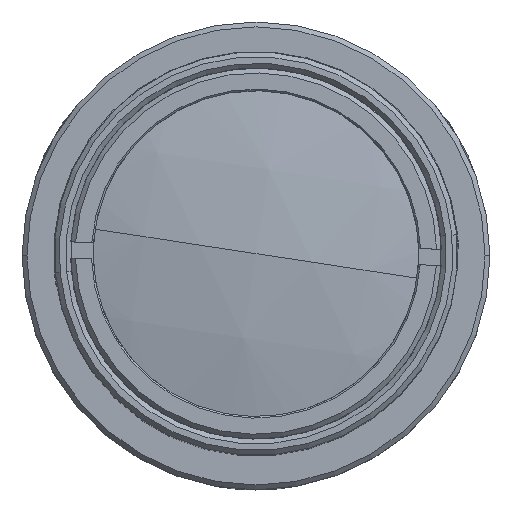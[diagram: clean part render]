
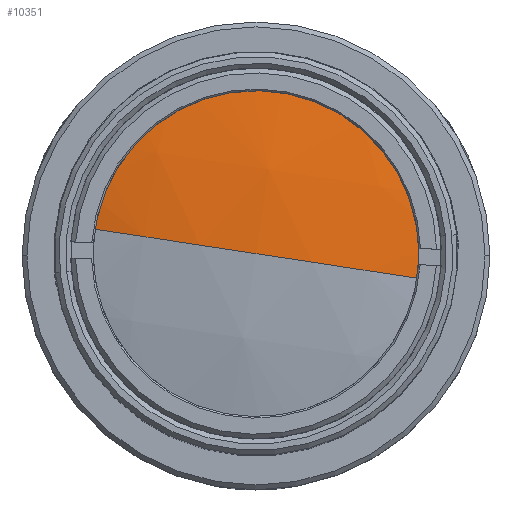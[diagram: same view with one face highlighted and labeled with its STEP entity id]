
A CAD part, top view. The second image highlights one B-rep face of the part: STEP entity #10351.
In plain terms, the highlighted spherical face has radius 48 mm.
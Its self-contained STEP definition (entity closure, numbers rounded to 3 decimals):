
#139 = VERTEX_POINT ( 'NONE', #2305 ) ;
#164 = SPHERICAL_SURFACE ( 'NONE', #4683, 48. ) ;
#229 = DIRECTION ( 'NONE',  ( -0.151, -0.989, 0. ) ) ;
#618 = ORIENTED_EDGE ( 'NONE', *, *, #9857, .T. ) ;
#877 = CARTESIAN_POINT ( 'NONE',  ( 10.372, -1.58, 103.152 ) ) ;
#985 = ORIENTED_EDGE ( 'NONE', *, *, #7111, .T. ) ;
#1015 = CARTESIAN_POINT ( 'NONE',  ( 0., 0., 104.312 ) ) ;
#1050 = EDGE_CURVE ( 'NONE', #10903, #8185, #4703, .T. ) ;
#2076 = AXIS2_PLACEMENT_3D ( 'NONE', #2925, #6778, #12117 ) ;
#2187 = DIRECTION ( 'NONE',  ( 0., 0., 1. ) ) ;
#2287 = DIRECTION ( 'NONE',  ( -0.989, 0.151, 0. ) ) ;
#2305 = CARTESIAN_POINT ( 'NONE',  ( 1.58, 10.372, 103.152 ) ) ;
#2925 = CARTESIAN_POINT ( 'NONE',  ( 0., 0., 56.312 ) ) ;
#3662 = DIRECTION ( 'NONE',  ( 0., 0., 1. ) ) ;
#4212 = EDGE_CURVE ( 'NONE', #7345, #8185, #6112, .T. ) ;
#4468 = CARTESIAN_POINT ( 'NONE',  ( 0., 0., 56.312 ) ) ;
#4683 = AXIS2_PLACEMENT_3D ( 'NONE', #4468, #229, #2287 ) ;
#4703 = CIRCLE ( 'NONE', #2076, 48. ) ;
#5735 = CIRCLE ( 'NONE', #12855, 10.491 ) ;
#6112 = CIRCLE ( 'NONE', #13035, 48. ) ;
#6298 = FACE_OUTER_BOUND ( 'NONE', #10580, .T. ) ;
#6361 = ORIENTED_EDGE ( 'NONE', *, *, #4212, .T. ) ;
#6778 = DIRECTION ( 'NONE',  ( -0.151, -0.989, 0. ) ) ;
#7111 = EDGE_CURVE ( 'NONE', #139, #7345, #7301, .T. ) ;
#7301 = CIRCLE ( 'NONE', #9709, 10.491 ) ;
#7345 = VERTEX_POINT ( 'NONE', #9849 ) ;
#7557 = DIRECTION ( 'NONE',  ( -0.151, -0.989, 0. ) ) ;
#8185 = VERTEX_POINT ( 'NONE', #1015 ) ;
#9709 = AXIS2_PLACEMENT_3D ( 'NONE', #12700, #2187, #7557 ) ;
#9849 = CARTESIAN_POINT ( 'NONE',  ( -10.372, 1.58, 103.152 ) ) ;
#9857 = EDGE_CURVE ( 'NONE', #10903, #139, #5735, .T. ) ;
#10351 = ADVANCED_FACE ( 'NONE', ( #6298 ), #164, .T. ) ;
#10415 = DIRECTION ( 'NONE',  ( -0.989, 0.151, 0. ) ) ;
#10580 = EDGE_LOOP ( 'NONE', ( #11596, #618, #985, #6361 ) ) ;
#10903 = VERTEX_POINT ( 'NONE', #877 ) ;
#11361 = DIRECTION ( 'NONE',  ( 0.151, 0.989, 0. ) ) ;
#11596 = ORIENTED_EDGE ( 'NONE', *, *, #1050, .F. ) ;
#11964 = DIRECTION ( 'NONE',  ( -0.151, -0.989, 0. ) ) ;
#12117 = DIRECTION ( 'NONE',  ( 0.989, -0.151, 0. ) ) ;
#12432 = CARTESIAN_POINT ( 'NONE',  ( 0., 0., 56.312 ) ) ;
#12700 = CARTESIAN_POINT ( 'NONE',  ( 0., 0., 103.152 ) ) ;
#12855 = AXIS2_PLACEMENT_3D ( 'NONE', #12987, #3662, #11964 ) ;
#12987 = CARTESIAN_POINT ( 'NONE',  ( 0., 0., 103.152 ) ) ;
#13035 = AXIS2_PLACEMENT_3D ( 'NONE', #12432, #11361, #10415 ) ;
